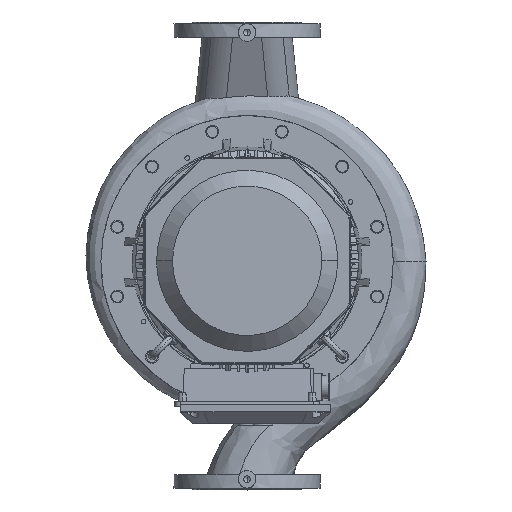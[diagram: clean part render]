
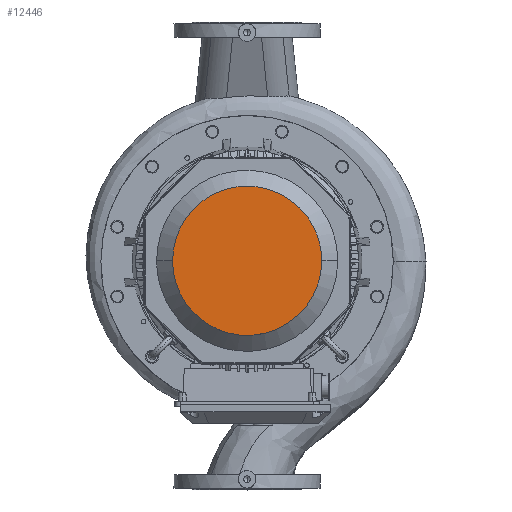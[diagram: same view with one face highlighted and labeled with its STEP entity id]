
A CAD part, top view. The second image highlights one B-rep face of the part: STEP entity #12446.
In plain terms, the highlighted free-form (B-spline) face has degree [1, 1] with [2, 2] control points.
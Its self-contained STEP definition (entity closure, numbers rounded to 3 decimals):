
#12446=ADVANCED_FACE('     F83',(#25033),#25034,.T.);
#12622=EDGE_CURVE('    E195',#25299,#25300,#25301,.T.);
#12626=EDGE_CURVE('    E195',#25300,#25299,#25305,.T.);
#25033=FACE_OUTER_BOUND('',#58398,.T.);
#25034=B_SPLINE_SURFACE_WITH_KNOTS('',1,1,((#58399,#58400),(#58401,#58402)),.UNSPECIFIED.,.F.,.F.,.F.,(2,2),(2,2),(0.044,0.955),(0.039,0.96),.UNSPECIFIED.);
#25299=VERTEX_POINT('',#59954);
#25300=VERTEX_POINT('',#59955);
#25301=(B_SPLINE_CURVE(2,(#59957,#59958,#59959,#59960,#59961),.UNSPECIFIED.,.F.,.F.)B_SPLINE_CURVE_WITH_KNOTS((3,2,3),(62.047,82.73,124.095),.UNSPECIFIED.)RATIONAL_B_SPLINE_CURVE((0.75,0.75,1.0,0.5,1.0))BOUNDED_CURVE()REPRESENTATION_ITEM('')GEOMETRIC_REPRESENTATION_ITEM()CURVE());
#25305=(B_SPLINE_CURVE(2,(#59975,#59976,#59977,#59978,#59979),.UNSPECIFIED.,.F.,.F.)B_SPLINE_CURVE_WITH_KNOTS((3,2,3),(0.0,41.365,62.047),.UNSPECIFIED.)RATIONAL_B_SPLINE_CURVE((1.0,0.5,1.0,0.75,0.75))BOUNDED_CURVE()REPRESENTATION_ITEM('')GEOMETRIC_REPRESENTATION_ITEM()CURVE());
#58398=EDGE_LOOP('',(#78624,#78625));
#58399=CARTESIAN_POINT('',(-148.051,129.131,-177.0));
#58400=CARTESIAN_POINT('',(-148.051,-126.525,-177.0));
#58401=CARTESIAN_POINT('',(107.447,129.131,-177.0));
#58402=CARTESIAN_POINT('',(107.447,-126.525,-177.0));
#59954=CARTESIAN_POINT('',(-147.622,1.096,-177.0));
#59955=CARTESIAN_POINT('',(107.438,1.096,-177.0));
#59957=CARTESIAN_POINT('',(-147.622,1.096,-177.0));
#59958=CARTESIAN_POINT('',(-147.622,-72.533,-177.0));
#59959=CARTESIAN_POINT('',(-83.857,-109.348,-177.0));
#59960=CARTESIAN_POINT('',(107.438,-219.792,-177.0));
#59961=CARTESIAN_POINT('',(107.438,1.096,-177.0));
#59975=CARTESIAN_POINT('',(107.438,1.096,-177.0));
#59976=CARTESIAN_POINT('',(107.438,221.985,-177.0));
#59977=CARTESIAN_POINT('',(-83.857,111.541,-177.0));
#59978=CARTESIAN_POINT('',(-147.622,74.726,-177.0));
#59979=CARTESIAN_POINT('',(-147.622,1.096,-177.0));
#78624=ORIENTED_EDGE('',*,*,#12626,.F.);
#78625=ORIENTED_EDGE('',*,*,#12622,.F.);
